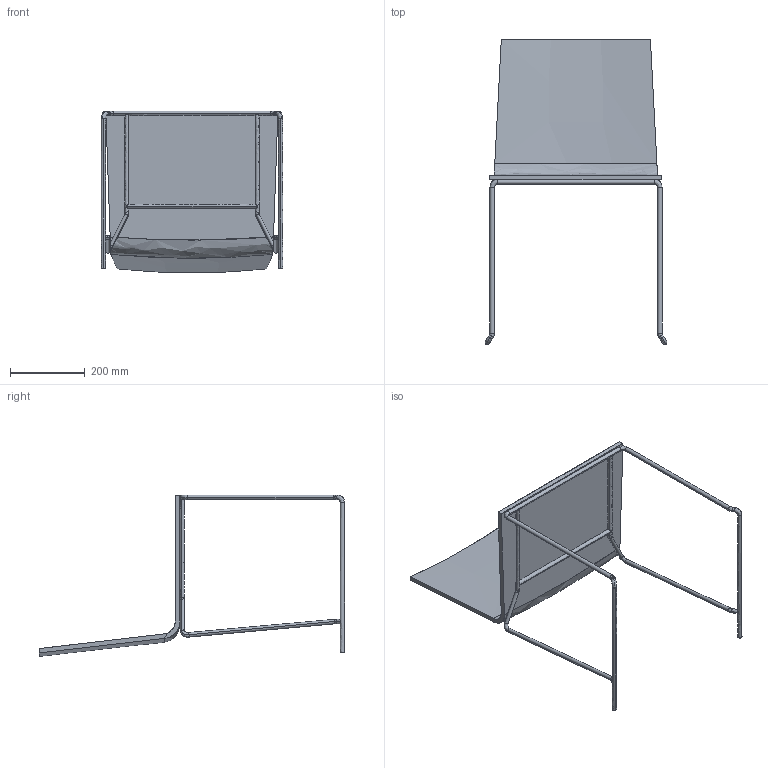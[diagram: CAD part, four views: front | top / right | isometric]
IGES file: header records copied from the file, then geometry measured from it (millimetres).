
Start section: SolidWorks IGES FILE using analytic representation for surfaces
Global section: file name: Z:\VIABLE 2006 TECNICO\OFICINA TECNICA\FABRICACIÓN\Producto\MODELADOS\RS\RS.IGS; native system: SolidWorks 2004 by SolidWorks Corporation; preprocessor: Version 5.3; author: DAVID204; date: 060425.135556; units: millimetre
Bounding box: 486 x 815.9 x 432.55 mm (x, y, z)
Surface area: 813469 mm2 (no closed solid volume)
Topology: 0 solids, 0 shells, 76 faces, 1122 edges, 1122 vertices
Faces by surface type: bspline 60, revolution 16
